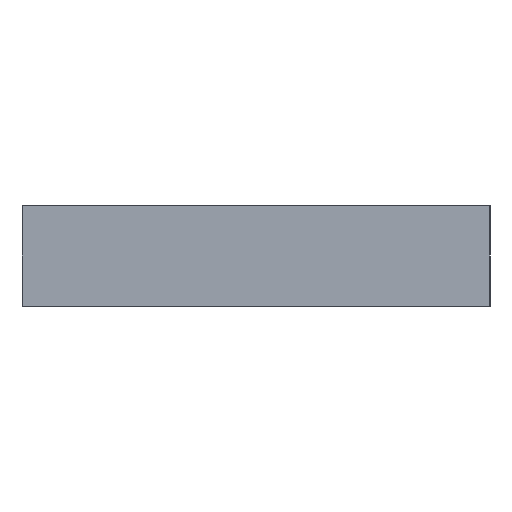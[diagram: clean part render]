
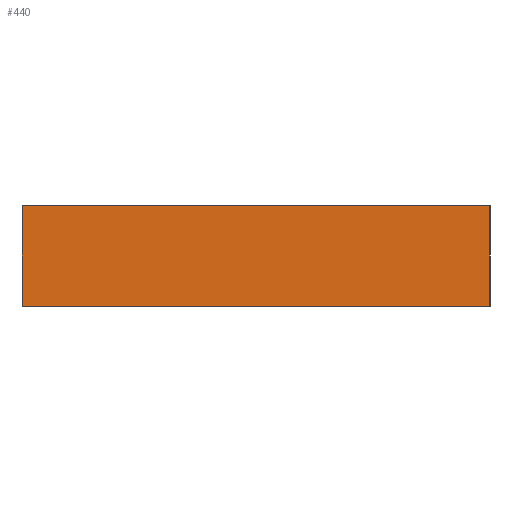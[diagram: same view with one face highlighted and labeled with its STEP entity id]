
A CAD part, front view. The second image highlights one B-rep face of the part: STEP entity #440.
In plain terms, the highlighted planar face has unit normal (0, -1, 0).
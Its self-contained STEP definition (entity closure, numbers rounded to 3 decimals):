
#8 = CARTESIAN_POINT ( 'NONE',  ( 7., -208.5, 3. ) ) ;
#84 = VERTEX_POINT ( 'NONE', #336 ) ;
#89 = VECTOR ( 'NONE', #256, 1000. ) ;
#109 = LINE ( 'NONE', #740, #89 ) ;
#133 = FACE_OUTER_BOUND ( 'NONE', #585, .T. ) ;
#146 = CARTESIAN_POINT ( 'NONE',  ( 0., -208.5, 3. ) ) ;
#246 = CARTESIAN_POINT ( 'NONE',  ( 0., -208.5, 3. ) ) ;
#251 = LINE ( 'NONE', #282, #552 ) ;
#256 = DIRECTION ( 'NONE',  ( 1., 0., 0. ) ) ;
#261 = DIRECTION ( 'NONE',  ( 0., 0., -1. ) ) ;
#268 = CARTESIAN_POINT ( 'NONE',  ( 7., -208.5, 3. ) ) ;
#282 = CARTESIAN_POINT ( 'NONE',  ( -7., -208.5, 3. ) ) ;
#336 = CARTESIAN_POINT ( 'NONE',  ( -7., -208.5, 3. ) ) ;
#341 = EDGE_CURVE ( 'NONE', #350, #354, #414, .T. ) ;
#346 = CARTESIAN_POINT ( 'NONE',  ( -7., -208.5, 0. ) ) ;
#350 = VERTEX_POINT ( 'NONE', #268 ) ;
#352 = EDGE_CURVE ( 'NONE', #494, #354, #109, .T. ) ;
#353 = EDGE_CURVE ( 'NONE', #84, #494, #251, .T. ) ;
#354 = VERTEX_POINT ( 'NONE', #736 ) ;
#358 = ORIENTED_EDGE ( 'NONE', *, *, #352, .T. ) ;
#402 = VECTOR ( 'NONE', #510, 1000. ) ;
#411 = ORIENTED_EDGE ( 'NONE', *, *, #642, .F. ) ;
#414 = LINE ( 'NONE', #8, #402 ) ;
#417 = PLANE ( 'NONE',  #702 ) ;
#440 = ADVANCED_FACE ( 'NONE', ( #133 ), #417, .F. ) ;
#463 = ORIENTED_EDGE ( 'NONE', *, *, #341, .F. ) ;
#494 = VERTEX_POINT ( 'NONE', #346 ) ;
#495 = DIRECTION ( 'NONE',  ( 0., 1., 0. ) ) ;
#499 = DIRECTION ( 'NONE',  ( 0., 0., 1. ) ) ;
#510 = DIRECTION ( 'NONE',  ( 0., 0., -1. ) ) ;
#520 = ORIENTED_EDGE ( 'NONE', *, *, #353, .T. ) ;
#522 = VECTOR ( 'NONE', #708, 1000. ) ;
#552 = VECTOR ( 'NONE', #261, 1000. ) ;
#585 = EDGE_LOOP ( 'NONE', ( #358, #463, #411, #520 ) ) ;
#642 = EDGE_CURVE ( 'NONE', #84, #350, #684, .T. ) ;
#684 = LINE ( 'NONE', #146, #522 ) ;
#702 = AXIS2_PLACEMENT_3D ( 'NONE', #246, #495, #499 ) ;
#708 = DIRECTION ( 'NONE',  ( 1., 0., 0. ) ) ;
#736 = CARTESIAN_POINT ( 'NONE',  ( 7., -208.5, 0. ) ) ;
#740 = CARTESIAN_POINT ( 'NONE',  ( 0., -208.5, 0. ) ) ;
